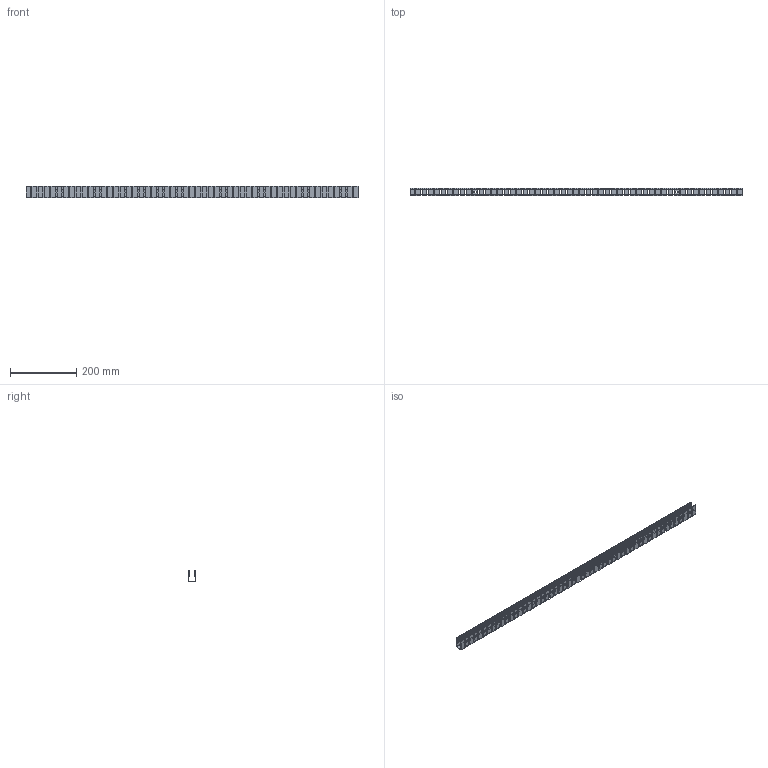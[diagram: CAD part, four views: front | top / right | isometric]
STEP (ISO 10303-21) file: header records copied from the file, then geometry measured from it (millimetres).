
FILE_DESCRIPTION(/* description */ (''),/* implementation_level */ '2;1');
FILE_NAME(/* name */ 'NF_1616_CURVED_PROFILE_CABLE_DUCT_SIDE_BEND_L1000_R02.step',/* time_stamp */ '2026-07-25T22:12:33+02:00',/* author */ (''),/* organization */ (''),/* preprocessor_version */ 'ST-DEVELOPER v20.1',/* originating_system */ 'Autodesk Translation Framework v15.8.0.0',/* authorisation */ '');
FILE_SCHEMA (('AUTOMOTIVE_DESIGN { 1 0 10303 214 3 1 1 }'));
Products named in the file (1): 2026-07-19-14-32-21-896
Bounding box: 1000 x 22 x 33.9 mm (x, y, z)
Volume: 151126.8 mm3; surface area: 246584.6 mm2
Topology: 3 solids, 3 shells, 3488 faces, 10446 edges, 6964 vertices
Faces by surface type: plane 2568, cylinder 642, bspline 278
Entity records: 119383 total; most frequent: CARTESIAN_POINT 24449, ORIENTED_EDGE 20892, DIRECTION 18868, EDGE_CURVE 10446, LINE 8190, VECTOR 8190, VERTEX_POINT 6964, AXIS2_PLACEMENT_3D 5339
